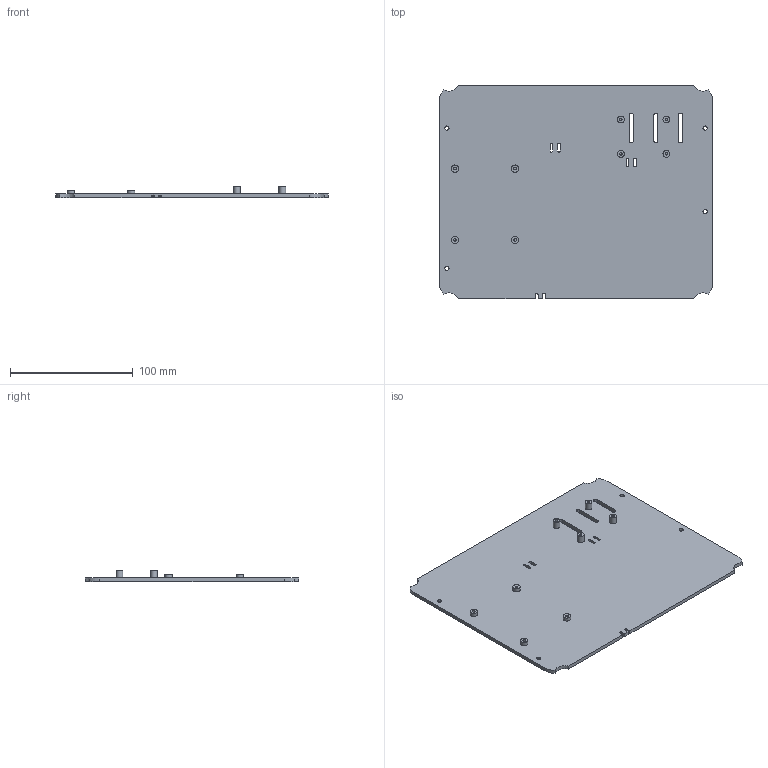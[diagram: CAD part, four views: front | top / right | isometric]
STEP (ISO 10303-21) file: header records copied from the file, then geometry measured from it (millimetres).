
FILE_DESCRIPTION(/* description */ ('Removable tray. Pi mounting pitch 58x49 mm and Waveshare adapter pitch 37x28 mm. Screw pilots require fit check. Reserved slotted area for an unselected 5 V regulator.'),/* implementation_level */ '2;1');
FILE_NAME(/* name */ '03 Electronics tray.step',/* time_stamp */ '2026-10-02T20:12:29+01:00',/* author */ (''),/* organization */ (''),/* preprocessor_version */ 'ST-DEVELOPER v20.2',/* originating_system */ 'Autodesk Translation Framework v15.15.0.0',/* authorisation */ '');
FILE_SCHEMA (('AUTOMOTIVE_DESIGN { 1 0 10303 214 3 1 1 }'));
Length unit declared in the file: millimetre
Products named in the file (1): 2026-10-02-20-12-29-329
Bounding box: 222 x 174 x 9 mm (x, y, z)
Volume: 114650.1 mm3; surface area: 80103.5 mm2
Topology: 1 solids, 1 shells, 126 faces, 312 edges, 208 vertices
Faces by surface type: cylinder 64, plane 62
Full cylindrical faces by diameter (mm): 1.9 x4, 2.2 x4, 3.4 x4, 5.5 x4, 6 x4, 6.6 x4
Entity records: 3868 total; most frequent: DIRECTION 694, CARTESIAN_POINT 647, ORIENTED_EDGE 624, EDGE_CURVE 312, AXIS2_PLACEMENT_3D 255, VERTEX_POINT 208, LINE 184, VECTOR 184
